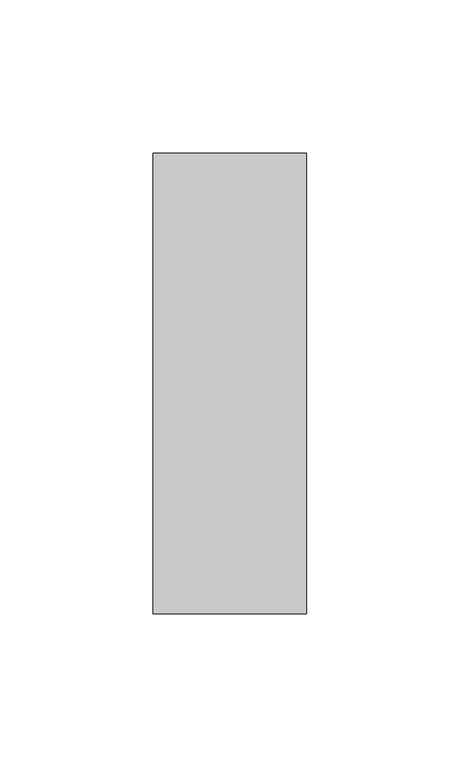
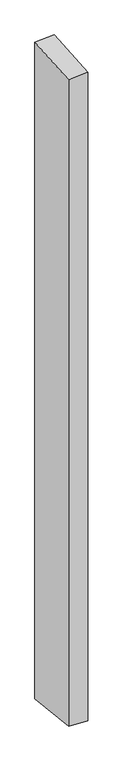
"""IFC4 building model written with IfcOpenShell, lengths in millimetres: member geometry, Прямоугольный импост : 50 x 150 мм."""

import ifcopenshell
import ifcopenshell.guid

model = None  # the IFC model being written
_history = None  # IfcOwnerHistory: only IFC2X3 demands one
_inside = {}  # id of a spatial element -> (the spatial element, [elements in it])
_under = {}  # id of a project, library or spatial element -> (it, [spatial elements below it])
_declared = {}  # id of a project -> (the project, [libraries it declares])
_typed = {}  # id of a type object -> (the type object, [elements of that type])
_made_of = {}  # id of a material, layer set ... -> (it, [elements and type objects made of it])


def new_model(schema):
    """Start an empty IFC model of exactly this schema.

    Asked for "IFC4X3", IfcOpenShell would pick the latest addendum, in which some entities
    have other attributes; the version numbers below select the first issue.
    IFC2X3 requires an IfcOwnerHistory on every rooted entity: one is made here for all.
    """
    global model, _history
    if schema == "IFC4X3":
        model = ifcopenshell.file(schema_version=(4, 3, 0, 0))
    else:
        model = ifcopenshell.file(schema=schema)
    _inside.clear()
    _under.clear()
    _declared.clear()
    _typed.clear()
    _made_of.clear()
    _history = None
    if model.schema == "IFC2X3":
        org = make("IfcOrganization", Name="unknown")
        user = make(
            "IfcPersonAndOrganization",
            ThePerson=make("IfcPerson", FamilyName="unknown"),
            TheOrganization=org,
        )
        app = make(
            "IfcApplication",
            ApplicationDeveloper=org,
            Version="unknown",
            ApplicationFullName="unknown",
            ApplicationIdentifier="unknown",
        )
        _history = make(
            "IfcOwnerHistory",
            OwningUser=user,
            OwningApplication=app,
            ChangeAction="ADDED",
            CreationDate=0,
        )
    return model


def make(cls, **values):
    """One entity of the class cls with the attributes given. An attribute that is None is left unset."""
    return model.create_entity(
        cls, **{name: value for name, value in values.items() if value is not None}
    )


def rooted(cls, **values):
    """An entity with a GlobalId (a new one), such as an element, a storey or a relation."""
    return make(cls, GlobalId=ifcopenshell.guid.new(), OwnerHistory=_history, **values)


def si_unit(unit_type, name, prefix=None):
    """IfcSIUnit, for example si_unit("LENGTHUNIT", "METRE", prefix="MILLI")."""
    return make("IfcSIUnit", UnitType=unit_type, Prefix=prefix, Name=name)


def assignment(units):
    """IfcUnitAssignment: the units of a project."""
    return None if units is None else make("IfcUnitAssignment", Units=units)


def point(xyz):
    """IfcCartesianPoint."""
    return None if xyz is None else make("IfcCartesianPoint", Coordinates=xyz)


def direction(xyz):
    """IfcDirection."""
    return None if xyz is None else make("IfcDirection", DirectionRatios=xyz)


def frame(location, z_axis=None, x_axis=None):
    """IfcAxis2Placement3D, a coordinate frame: its origin and axes. An axis left out is left unset."""
    return make(
        "IfcAxis2Placement3D",
        Location=point(location),
        Axis=direction(z_axis),
        RefDirection=direction(x_axis),
    )


def origin():
    """The frame at (0, 0, 0) with its axes left unset."""
    return frame((0.0, 0.0, 0.0))


def place(relative_to, where):
    """IfcLocalPlacement: puts the frame where relative to a parent placement (None: the world)."""
    return make(
        "IfcLocalPlacement", PlacementRelTo=relative_to, RelativePlacement=where
    )


def context(
    kind, dimensions, precision=None, world=None, true_north=None, identifier=None
):
    """IfcGeometricRepresentationContext, for example the 3D "Model" context."""
    return make(
        "IfcGeometricRepresentationContext",
        ContextIdentifier=identifier,
        ContextType=kind,
        CoordinateSpaceDimension=dimensions,
        Precision=precision,
        WorldCoordinateSystem=world,
        TrueNorth=true_north,
    )


def project(units=None, contexts=None):
    """IfcProject with its units and contexts."""
    return rooted(
        "IfcProject",
        Name="project",
        RepresentationContexts=contexts,
        UnitsInContext=assignment(units),
    )


def spatial(cls, under=None, at=None, **own):
    """A site, building, storey or space (cls), placed at a placement, below another one or the project."""
    s = rooted(cls, ObjectPlacement=at, **own)
    if under is not None:
        _under.setdefault(under.id(), (under, []))[1].append(s)
    return s


def faces_of(points, faces, orient=None, outer=None):
    """IfcFace entities. A face is a list of loops; a loop is a list of indices into points, from 0.

    orient and outer hold one flag for each loop. By default every Orientation is true, the
    first loop of a face is its IfcFaceOuterBound and the others are IfcFaceBound.
    """
    made = []
    for i, loops in enumerate(faces):
        bounds = []
        for j, loop in enumerate(loops):
            is_outer = j == 0 if outer is None else outer[i][j]
            bounds.append(
                make(
                    "IfcFaceOuterBound" if is_outer else "IfcFaceBound",
                    Bound=make("IfcPolyLoop", Polygon=[points[k] for k in loop]),
                    Orientation=True if orient is None else orient[i][j],
                )
            )
        made.append(make("IfcFace", Bounds=bounds))
    return made


def faceted_brep(points, faces, orient=None, outer=None, voids=None):
    """IfcFacetedBrep: a solid bounded by flat faces; with voids (closed shells), ...WithVoids."""
    shared = [point(p) for p in points]
    hull = make("IfcClosedShell", CfsFaces=faces_of(shared, faces, orient, outer))
    if voids is None:
        return make("IfcFacetedBrep", Outer=hull)
    return make(
        "IfcFacetedBrepWithVoids",
        Outer=hull,
        Voids=[
            make(cls, CfsFaces=faces_of(shared, fs, o, b)) for cls, fs, o, b in voids
        ],
    )


def shape(context_of_items, identifier, shape_type, items):
    """IfcShapeRepresentation: the items that make up one representation, for example the "Body"."""
    return make(
        "IfcShapeRepresentation",
        ContextOfItems=context_of_items,
        RepresentationIdentifier=identifier,
        RepresentationType=shape_type,
        Items=items,
    )


def source(mapping_origin, context_of_items, identifier, shape_type, items):
    """IfcRepresentationMap: a shape defined once, which mapped items show again and again."""
    return make(
        "IfcRepresentationMap",
        MappingOrigin=mapping_origin,
        MappedRepresentation=shape(context_of_items, identifier, shape_type, items),
    )


def transform(
    local_origin,
    x_axis=None,
    y_axis=None,
    z_axis=None,
    scale=None,
    scale2=None,
    scale3=None,
    uniform=True,
):
    """IfcCartesianTransformationOperator3D, or its non-uniform kind. x_axis, y_axis, z_axis: its Axis1, 2, 3."""
    if uniform:
        return make(
            "IfcCartesianTransformationOperator3D",
            Axis1=direction(x_axis),
            Axis2=direction(y_axis),
            LocalOrigin=point(local_origin),
            Scale=scale,
            Axis3=direction(z_axis),
        )
    return make(
        "IfcCartesianTransformationOperator3DnonUniform",
        Axis1=direction(x_axis),
        Axis2=direction(y_axis),
        LocalOrigin=point(local_origin),
        Scale=scale,
        Axis3=direction(z_axis),
        Scale2=scale2,
        Scale3=scale3,
    )


def mapped(mapping_source, mapping_target):
    """IfcMappedItem: shows the shape of a source again, moved by a transform."""
    return make(
        "IfcMappedItem", MappingSource=mapping_source, MappingTarget=mapping_target
    )


def made_of(thing, what):
    """Note that an element or type object is made of a material, layer set ...; save() writes the relation."""
    if what is not None:
        _made_of.setdefault(what.id(), (what, []))[1].append(thing)
    return thing


def element(
    cls,
    number,
    at=None,
    inside=None,
    cuts=None,
    type_object=None,
    material=None,
    context=None,
    identifier="Body",
    shape_type=None,
    held_by="IfcProductDefinitionShape",
    body=None,
    shapes=None,
    **own,
):
    """One element of the class cls, such as IfcWall. Its Tag is "e" and its number.

    at: its placement. inside: the storey or other place that contains it. cuts: it is an
    opening in that element (IfcRelVoidsElement). A single representation is given by context,
    identifier, shape_type and body (its items); several are given by shapes. held_by: the class
    of the entity that holds the representations. save() writes the other relations.
    """
    e = rooted(cls, Tag="e%d" % number, ObjectPlacement=at, **own)
    if body is not None:
        shapes = [shape(context, identifier, shape_type, body)]
    if shapes is not None:
        e.Representation = make(held_by, Representations=shapes)
    if inside is not None:
        _inside.setdefault(inside.id(), (inside, []))[1].append(e)
    if cuts is not None:
        rooted(
            "IfcRelVoidsElement", RelatingBuildingElement=cuts, RelatedOpeningElement=e
        )
    if type_object is not None:
        _typed.setdefault(type_object.id(), (type_object, []))[1].append(e)
    return made_of(e, material)


def aggregate(whole, parts):
    """IfcRelAggregates: a whole, such as a stair, and the parts it consists of."""
    return rooted("IfcRelAggregates", RelatingObject=whole, RelatedObjects=parts)


def save(model, path):
    """Write the relations noted so far, then the file.

    IfcRelAggregates (storeys below a building ...), IfcRelContainedInSpatialStructure (elements
    in a storey), IfcRelDefinesByType, IfcRelAssociatesMaterial and IfcRelDeclares: one each for
    every whole, place, type object, material and project.
    """
    for whole, parts in _under.values():
        aggregate(whole, parts)
    for where, things in _inside.values():
        rooted(
            "IfcRelContainedInSpatialStructure",
            RelatedElements=things,
            RelatingStructure=where,
        )
    for kind, things in _typed.values():
        rooted("IfcRelDefinesByType", RelatedObjects=things, RelatingType=kind)
    for what, things in _made_of.values():
        rooted("IfcRelAssociatesMaterial", RelatedObjects=things, RelatingMaterial=what)
    for by, libraries in _declared.values():
        rooted("IfcRelDeclares", RelatingContext=by, RelatedDefinitions=libraries)
    model.write(path)


def member_b0075fe1(model_context):
    return source(origin(), model_context, "Body", "Brep", [
        faceted_brep([(-25.0, 75.0, 4.5590935), (25.0, 75.0, 6.743058), (25.0, 75.0, -1785.094604), (-25.0, 75.0, -1782.3091397), (-25.0, -75.0, -6.743058), (-25.0, -75.0, -1766.4179771), (25.0, -75.0, -4.5590935), (25.0, -75.0, -1769.2034414)], [[[0, 1, 2, 3]], [[4, 0, 3, 5]], [[6, 4, 5, 7]], [[1, 6, 7, 2]], [[1, 0, 4, 6]], [[2, 7, 5, 3]]]),
    ])


if __name__ == "__main__":
    model = new_model("IFC4")
    model_context = context("Model", 3, world=origin())
    ifc_project = project(units=[si_unit("LENGTHUNIT", "METRE", prefix="MILLI")], contexts=[model_context])
    site = spatial("IfcSite", under=ifc_project)
    building = spatial("IfcBuilding", under=site)
    placement = place(None, origin())
    member_shape = member_b0075fe1(model_context)
    element("IfcMember", 1, ObjectType="Прямоугольный импост : 50 x 150 мм", at=placement, inside=building, context=model_context, shape_type="MappedRepresentation", body=[
        mapped(member_shape, transform((0.0, 0.0, 0.0), x_axis=(1.0, 0.0, 0.0), y_axis=(0.0, 1.0, 0.0), z_axis=(0.0, 0.0, 1.0))),
    ])
    save(model, "model.ifc")
